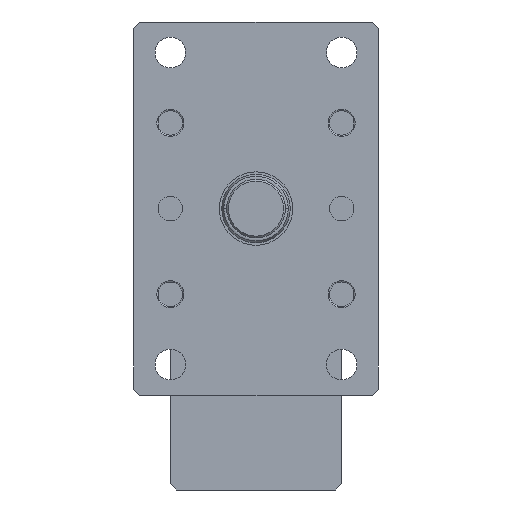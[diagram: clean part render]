
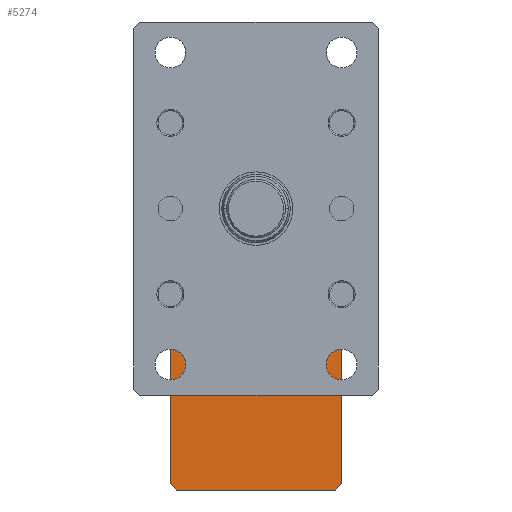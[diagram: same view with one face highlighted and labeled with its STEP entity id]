
A CAD part, left-side view. The second image highlights one B-rep face of the part: STEP entity #5274.
In plain terms, the highlighted planar face has unit normal (-1, 0, 0).
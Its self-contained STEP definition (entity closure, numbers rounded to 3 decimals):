
#2 = EDGE_CURVE ( 'NONE', #5079, #1241, #8710, .T. ) ;
#45 = EDGE_LOOP ( 'NONE', ( #4727, #7423, #1036, #8225, #2704, #2508, #6720, #6388 ) ) ;
#86 = EDGE_CURVE ( 'NONE', #2311, #2683, #6431, .T. ) ;
#241 = CARTESIAN_POINT ( 'NONE',  ( 377.5, 65., -230. ) ) ;
#434 = FACE_OUTER_BOUND ( 'NONE', #45, .T. ) ;
#485 = CARTESIAN_POINT ( 'NONE',  ( 377.5, 70., -90. ) ) ;
#622 = VECTOR ( 'NONE', #2768, 1000. ) ;
#692 = CARTESIAN_POINT ( 'NONE',  ( 377.5, 70., -225. ) ) ;
#911 = VECTOR ( 'NONE', #5108, 1000. ) ;
#923 = DIRECTION ( 'NONE',  ( 1., 0., 0. ) ) ;
#992 = CARTESIAN_POINT ( 'NONE',  ( 377.5, -70., -95. ) ) ;
#995 = DIRECTION ( 'NONE',  ( 0., -0.707, 0.707 ) ) ;
#1036 = ORIENTED_EDGE ( 'NONE', *, *, #3566, .T. ) ;
#1184 = CARTESIAN_POINT ( 'NONE',  ( 377.5, -65., -230. ) ) ;
#1185 = VECTOR ( 'NONE', #995, 1000. ) ;
#1241 = VERTEX_POINT ( 'NONE', #8383 ) ;
#1264 = VERTEX_POINT ( 'NONE', #2820 ) ;
#1926 = CARTESIAN_POINT ( 'NONE',  ( 377.5, 70., -95. ) ) ;
#2311 = VERTEX_POINT ( 'NONE', #2450 ) ;
#2315 = EDGE_CURVE ( 'NONE', #6767, #1241, #5305, .T. ) ;
#2445 = LINE ( 'NONE', #485, #5932 ) ;
#2450 = CARTESIAN_POINT ( 'NONE',  ( 377.5, -70., -95. ) ) ;
#2508 = ORIENTED_EDGE ( 'NONE', *, *, #2, .T. ) ;
#2677 = AXIS2_PLACEMENT_3D ( 'NONE', #2942, #923, #5746 ) ;
#2683 = VERTEX_POINT ( 'NONE', #5583 ) ;
#2704 = ORIENTED_EDGE ( 'NONE', *, *, #8531, .F. ) ;
#2768 = DIRECTION ( 'NONE',  ( 0., 0., 1. ) ) ;
#2820 = CARTESIAN_POINT ( 'NONE',  ( 377.5, 70., -95. ) ) ;
#2942 = CARTESIAN_POINT ( 'NONE',  ( 377.5, 70., -230. ) ) ;
#2979 = LINE ( 'NONE', #7188, #1185 ) ;
#3175 = CARTESIAN_POINT ( 'NONE',  ( 377.5, 65., -90. ) ) ;
#3233 = EDGE_CURVE ( 'NONE', #6767, #6252, #2979, .T. ) ;
#3417 = VECTOR ( 'NONE', #4549, 1000. ) ;
#3546 = VERTEX_POINT ( 'NONE', #3175 ) ;
#3566 = EDGE_CURVE ( 'NONE', #2683, #3546, #2445, .T. ) ;
#3728 = VECTOR ( 'NONE', #6768, 1000. ) ;
#4008 = CARTESIAN_POINT ( 'NONE',  ( 377.5, 70., -230. ) ) ;
#4065 = LINE ( 'NONE', #6934, #622 ) ;
#4114 = LINE ( 'NONE', #4008, #7781 ) ;
#4343 = PLANE ( 'NONE',  #2677 ) ;
#4358 = DIRECTION ( 'NONE',  ( 0., -0.707, -0.707 ) ) ;
#4482 = EDGE_CURVE ( 'NONE', #6252, #2311, #4065, .T. ) ;
#4549 = DIRECTION ( 'NONE',  ( 0., 1., 0. ) ) ;
#4613 = DIRECTION ( 'NONE',  ( 0., 1., 0. ) ) ;
#4727 = ORIENTED_EDGE ( 'NONE', *, *, #4482, .T. ) ;
#5079 = VERTEX_POINT ( 'NONE', #692 ) ;
#5108 = DIRECTION ( 'NONE',  ( 0., 0.707, 0.707 ) ) ;
#5274 = ADVANCED_FACE ( 'NONE', ( #434 ), #4343, .F. ) ;
#5305 = LINE ( 'NONE', #6625, #3417 ) ;
#5365 = LINE ( 'NONE', #1926, #3728 ) ;
#5583 = CARTESIAN_POINT ( 'NONE',  ( 377.5, -65., -90. ) ) ;
#5746 = DIRECTION ( 'NONE',  ( 0., 1., 0. ) ) ;
#5932 = VECTOR ( 'NONE', #4613, 1000. ) ;
#6252 = VERTEX_POINT ( 'NONE', #6634 ) ;
#6386 = EDGE_CURVE ( 'NONE', #3546, #1264, #5365, .T. ) ;
#6388 = ORIENTED_EDGE ( 'NONE', *, *, #3233, .T. ) ;
#6431 = LINE ( 'NONE', #992, #911 ) ;
#6625 = CARTESIAN_POINT ( 'NONE',  ( 377.5, 70., -230. ) ) ;
#6634 = CARTESIAN_POINT ( 'NONE',  ( 377.5, -70., -225. ) ) ;
#6720 = ORIENTED_EDGE ( 'NONE', *, *, #2315, .F. ) ;
#6767 = VERTEX_POINT ( 'NONE', #1184 ) ;
#6768 = DIRECTION ( 'NONE',  ( 0., 0.707, -0.707 ) ) ;
#6850 = VECTOR ( 'NONE', #4358, 1000. ) ;
#6934 = CARTESIAN_POINT ( 'NONE',  ( 377.5, -70., -230. ) ) ;
#7188 = CARTESIAN_POINT ( 'NONE',  ( 377.5, -65., -230. ) ) ;
#7423 = ORIENTED_EDGE ( 'NONE', *, *, #86, .T. ) ;
#7781 = VECTOR ( 'NONE', #8167, 1000. ) ;
#8167 = DIRECTION ( 'NONE',  ( 0., 0., 1. ) ) ;
#8225 = ORIENTED_EDGE ( 'NONE', *, *, #6386, .T. ) ;
#8383 = CARTESIAN_POINT ( 'NONE',  ( 377.5, 65., -230. ) ) ;
#8531 = EDGE_CURVE ( 'NONE', #5079, #1264, #4114, .T. ) ;
#8710 = LINE ( 'NONE', #241, #6850 ) ;
